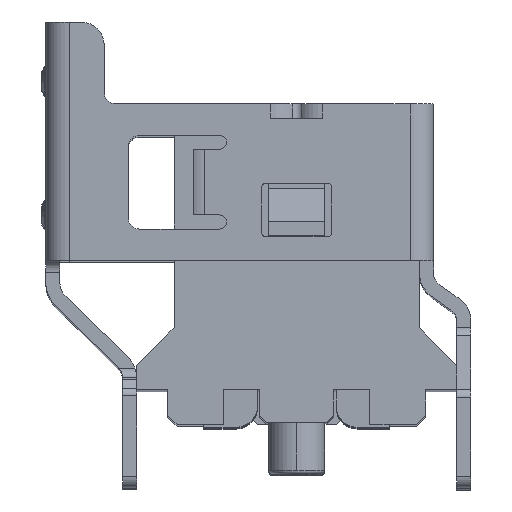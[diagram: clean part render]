
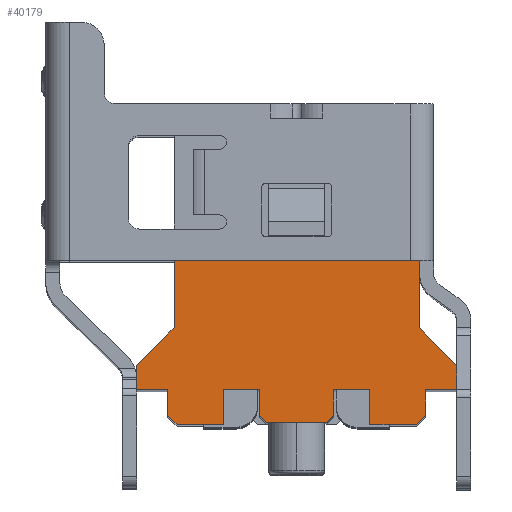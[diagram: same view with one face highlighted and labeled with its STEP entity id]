
A CAD part, top view. The second image highlights one B-rep face of the part: STEP entity #40179.
In plain terms, the highlighted planar face has unit normal (0, 0, 1).
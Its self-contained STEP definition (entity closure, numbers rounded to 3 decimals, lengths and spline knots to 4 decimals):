
#2638=DIRECTION('',(1.,0.,0.));
#2639=VECTOR('',#2638,0.665);
#2640=CARTESIAN_POINT('',(4.745,1.8,0.));
#2641=LINE('',#2640,#2639);
#2642=DIRECTION('',(0.707,0.707,0.));
#2643=VECTOR('',#2642,0.2828);
#2644=CARTESIAN_POINT('',(4.545,1.05,0.));
#2645=LINE('',#2644,#2643);
#2646=DIRECTION('',(1.,0.,0.));
#2647=VECTOR('',#2646,0.77);
#2648=CARTESIAN_POINT('',(2.78,1.8,0.));
#2649=LINE('',#2648,#2647);
#2650=DIRECTION('',(0.707,0.707,0.));
#2651=VECTOR('',#2650,0.2121);
#2652=CARTESIAN_POINT('',(2.63,1.1,0.));
#2653=LINE('',#2652,#2651);
#2654=DIRECTION('',(0.707,-0.707,0.));
#2655=VECTOR('',#2654,0.2121);
#2656=CARTESIAN_POINT('',(1.2,1.25,0.));
#2657=LINE('',#2656,#2655);
#2658=DIRECTION('',(1.,0.,0.));
#2659=VECTOR('',#2658,0.77);
#2660=CARTESIAN_POINT('',(0.43,1.8,0.));
#2661=LINE('',#2660,#2659);
#2662=DIRECTION('',(0.707,-0.707,0.));
#2663=VECTOR('',#2662,0.2828);
#2664=CARTESIAN_POINT('',(-0.765,1.25,0.));
#2665=LINE('',#2664,#2663);
#2666=DIRECTION('',(1.,0.,0.));
#2667=VECTOR('',#2666,0.665);
#2668=CARTESIAN_POINT('',(-1.43,1.8,0.));
#2669=LINE('',#2668,#2667);
#2670=DIRECTION('',(-0.707,-0.707,0.));
#2671=VECTOR('',#2670,1.1314);
#2672=CARTESIAN_POINT('',(-0.63,3.1186,0.));
#2673=LINE('',#2672,#2671);
#2674=DIRECTION('',(0.,-1.,0.));
#2675=VECTOR('',#2674,1.4414);
#2676=CARTESIAN_POINT('',(-0.63,4.56,0.));
#2677=LINE('',#2676,#2675);
#2678=DIRECTION('',(-1.,0.,0.));
#2679=VECTOR('',#2678,5.24);
#2680=CARTESIAN_POINT('',(4.61,4.56,0.));
#2681=LINE('',#2680,#2679);
#2682=DIRECTION('',(0.,1.,0.));
#2683=VECTOR('',#2682,1.4414);
#2684=CARTESIAN_POINT('',(4.61,3.1186,0.));
#2685=LINE('',#2684,#2683);
#2686=DIRECTION('',(-0.707,0.707,0.));
#2687=VECTOR('',#2686,1.1314);
#2688=CARTESIAN_POINT('',(5.41,2.3186,0.));
#2689=LINE('',#2688,#2687);
#2734=DIRECTION('',(0.,1.,0.));
#2735=VECTOR('',#2734,0.222);
#2736=CARTESIAN_POINT('',(5.41,1.8,0.));
#2737=LINE('',#2736,#2735);
#2938=DIRECTION('',(0.,1.,0.));
#2939=VECTOR('',#2938,0.2967);
#2940=CARTESIAN_POINT('',(5.41,2.022,0.));
#2941=LINE('',#2940,#2939);
#3350=DIRECTION('',(0.,1.,0.));
#3351=VECTOR('',#3350,0.55);
#3352=CARTESIAN_POINT('',(4.745,1.25,0.));
#3353=LINE('',#3352,#3351);
#3378=DIRECTION('',(0.,-1.,0.));
#3379=VECTOR('',#3378,0.75);
#3380=CARTESIAN_POINT('',(3.55,1.8,0.));
#3381=LINE('',#3380,#3379);
#3382=DIRECTION('',(-1.,0.,0.));
#3383=VECTOR('',#3382,0.995);
#3384=CARTESIAN_POINT('',(4.545,1.05,0.));
#3385=LINE('',#3384,#3383);
#3398=DIRECTION('',(0.,-1.,0.));
#3399=VECTOR('',#3398,0.55);
#3400=CARTESIAN_POINT('',(2.78,1.8,0.));
#3401=LINE('',#3400,#3399);
#3510=DIRECTION('',(1.,0.,0.));
#3511=VECTOR('',#3510,1.28);
#3512=CARTESIAN_POINT('',(1.35,1.1,0.));
#3513=LINE('',#3512,#3511);
#3590=DIRECTION('',(0.,-1.,0.));
#3591=VECTOR('',#3590,0.55);
#3592=CARTESIAN_POINT('',(1.2,1.8,0.));
#3593=LINE('',#3592,#3591);
#5110=DIRECTION('',(0.,1.,0.));
#5111=VECTOR('',#5110,0.75);
#5112=CARTESIAN_POINT('',(0.43,1.05,0.));
#5113=LINE('',#5112,#5111);
#5134=DIRECTION('',(0.,-1.,0.));
#5135=VECTOR('',#5134,0.55);
#5136=CARTESIAN_POINT('',(-0.765,1.8,0.));
#5137=LINE('',#5136,#5135);
#5142=DIRECTION('',(-1.,0.,0.));
#5143=VECTOR('',#5142,0.995);
#5144=CARTESIAN_POINT('',(0.43,1.05,0.));
#5145=LINE('',#5144,#5143);
#5180=DIRECTION('',(0.,-1.,0.));
#5181=VECTOR('',#5180,0.5186);
#5182=CARTESIAN_POINT('',(-1.43,2.3186,0.));
#5183=LINE('',#5182,#5181);
#28564=CARTESIAN_POINT('',(-1.43,1.8,0.));
#28565=VERTEX_POINT('',#28564);
#28566=CARTESIAN_POINT('',(-0.765,1.8,0.));
#28567=VERTEX_POINT('',#28566);
#28572=CARTESIAN_POINT('',(0.43,1.8,0.));
#28573=VERTEX_POINT('',#28572);
#28574=CARTESIAN_POINT('',(1.2,1.8,0.));
#28575=VERTEX_POINT('',#28574);
#28604=CARTESIAN_POINT('',(2.78,1.8,0.));
#28605=VERTEX_POINT('',#28604);
#28606=CARTESIAN_POINT('',(3.55,1.8,0.));
#28607=VERTEX_POINT('',#28606);
#28612=CARTESIAN_POINT('',(4.745,1.8,0.));
#28613=VERTEX_POINT('',#28612);
#28614=CARTESIAN_POINT('',(5.41,1.8,0.));
#28615=VERTEX_POINT('',#28614);
#29520=CARTESIAN_POINT('',(4.61,3.1186,0.));
#29521=VERTEX_POINT('',#29520);
#29522=CARTESIAN_POINT('',(4.61,4.56,0.));
#29523=VERTEX_POINT('',#29522);
#29576=CARTESIAN_POINT('',(-0.63,4.56,0.));
#29577=VERTEX_POINT('',#29576);
#30126=CARTESIAN_POINT('',(-0.63,3.1186,0.));
#30127=VERTEX_POINT('',#30126);
#30288=CARTESIAN_POINT('',(5.41,2.022,0.));
#30289=VERTEX_POINT('',#30288);
#30290=CARTESIAN_POINT('',(4.745,1.25,0.));
#30291=VERTEX_POINT('',#30290);
#30292=CARTESIAN_POINT('',(4.545,1.05,0.));
#30293=VERTEX_POINT('',#30292);
#30294=CARTESIAN_POINT('',(3.55,1.05,0.));
#30295=VERTEX_POINT('',#30294);
#30296=CARTESIAN_POINT('',(2.78,1.25,0.));
#30297=VERTEX_POINT('',#30296);
#30298=CARTESIAN_POINT('',(2.63,1.1,0.));
#30299=VERTEX_POINT('',#30298);
#30300=CARTESIAN_POINT('',(1.35,1.1,0.));
#30301=VERTEX_POINT('',#30300);
#30302=CARTESIAN_POINT('',(1.2,1.25,0.));
#30303=VERTEX_POINT('',#30302);
#30304=CARTESIAN_POINT('',(0.43,1.05,0.));
#30305=VERTEX_POINT('',#30304);
#30306=CARTESIAN_POINT('',(-0.565,1.05,0.));
#30307=VERTEX_POINT('',#30306);
#30308=CARTESIAN_POINT('',(-0.765,1.25,0.));
#30309=VERTEX_POINT('',#30308);
#30310=CARTESIAN_POINT('',(-1.43,2.3186,0.));
#30311=VERTEX_POINT('',#30310);
#30312=CARTESIAN_POINT('',(5.41,2.3186,0.));
#30313=VERTEX_POINT('',#30312);
#40129=CARTESIAN_POINT('',(1.99,2.805,0.));
#40130=DIRECTION('',(0.,0.,1.));
#40131=DIRECTION('',(1.,0.,0.));
#40132=AXIS2_PLACEMENT_3D('',#40129,#40130,#40131);
#40133=PLANE('',#40132);
#40135=ORIENTED_EDGE('',*,*,#40134,.F.);
#40136=ORIENTED_EDGE('',*,*,#36662,.F.);
#40138=ORIENTED_EDGE('',*,*,#40137,.F.);
#40140=ORIENTED_EDGE('',*,*,#40139,.F.);
#40142=ORIENTED_EDGE('',*,*,#40141,.T.);
#40144=ORIENTED_EDGE('',*,*,#40143,.F.);
#40145=ORIENTED_EDGE('',*,*,#36654,.F.);
#40147=ORIENTED_EDGE('',*,*,#40146,.T.);
#40149=ORIENTED_EDGE('',*,*,#40148,.F.);
#40151=ORIENTED_EDGE('',*,*,#40150,.F.);
#40153=ORIENTED_EDGE('',*,*,#40152,.F.);
#40155=ORIENTED_EDGE('',*,*,#40154,.F.);
#40156=ORIENTED_EDGE('',*,*,#36622,.F.);
#40158=ORIENTED_EDGE('',*,*,#40157,.F.);
#40160=ORIENTED_EDGE('',*,*,#40159,.T.);
#40162=ORIENTED_EDGE('',*,*,#40161,.F.);
#40164=ORIENTED_EDGE('',*,*,#40163,.F.);
#40165=ORIENTED_EDGE('',*,*,#36614,.F.);
#40167=ORIENTED_EDGE('',*,*,#40166,.F.);
#40169=ORIENTED_EDGE('',*,*,#40168,.F.);
#40170=ORIENTED_EDGE('',*,*,#39212,.F.);
#40171=ORIENTED_EDGE('',*,*,#38113,.F.);
#40172=ORIENTED_EDGE('',*,*,#37972,.F.);
#40174=ORIENTED_EDGE('',*,*,#40173,.F.);
#40176=ORIENTED_EDGE('',*,*,#40175,.F.);
#40177=EDGE_LOOP('',(#40135,#40136,#40138,#40140,#40142,#40144,#40145,#40147,
#40149,#40151,#40153,#40155,#40156,#40158,#40160,#40162,#40164,#40165,#40167,
#40169,#40170,#40171,#40172,#40174,#40176));
#40178=FACE_OUTER_BOUND('',#40177,.F.);
#40179=ADVANCED_FACE('',(#40178),#40133,.T.);
#36614=EDGE_CURVE('',#28565,#28567,#2669,.T.);
#36622=EDGE_CURVE('',#28573,#28575,#2661,.T.);
#36654=EDGE_CURVE('',#28605,#28607,#2649,.T.);
#36662=EDGE_CURVE('',#28613,#28615,#2641,.T.);
#37972=EDGE_CURVE('',#29521,#29523,#2685,.T.);
#38113=EDGE_CURVE('',#29523,#29577,#2681,.T.);
#39212=EDGE_CURVE('',#29577,#30127,#2677,.T.);
#40134=EDGE_CURVE('',#28615,#30289,#2737,.T.);
#40137=EDGE_CURVE('',#30291,#28613,#3353,.T.);
#40139=EDGE_CURVE('',#30293,#30291,#2645,.T.);
#40141=EDGE_CURVE('',#30293,#30295,#3385,.T.);
#40143=EDGE_CURVE('',#28607,#30295,#3381,.T.);
#40146=EDGE_CURVE('',#28605,#30297,#3401,.T.);
#40148=EDGE_CURVE('',#30299,#30297,#2653,.T.);
#40150=EDGE_CURVE('',#30301,#30299,#3513,.T.);
#40152=EDGE_CURVE('',#30303,#30301,#2657,.T.);
#40154=EDGE_CURVE('',#28575,#30303,#3593,.T.);
#40157=EDGE_CURVE('',#30305,#28573,#5113,.T.);
#40159=EDGE_CURVE('',#30305,#30307,#5145,.T.);
#40161=EDGE_CURVE('',#30309,#30307,#2665,.T.);
#40163=EDGE_CURVE('',#28567,#30309,#5137,.T.);
#40166=EDGE_CURVE('',#30311,#28565,#5183,.T.);
#40168=EDGE_CURVE('',#30127,#30311,#2673,.T.);
#40173=EDGE_CURVE('',#30313,#29521,#2689,.T.);
#40175=EDGE_CURVE('',#30289,#30313,#2941,.T.);
